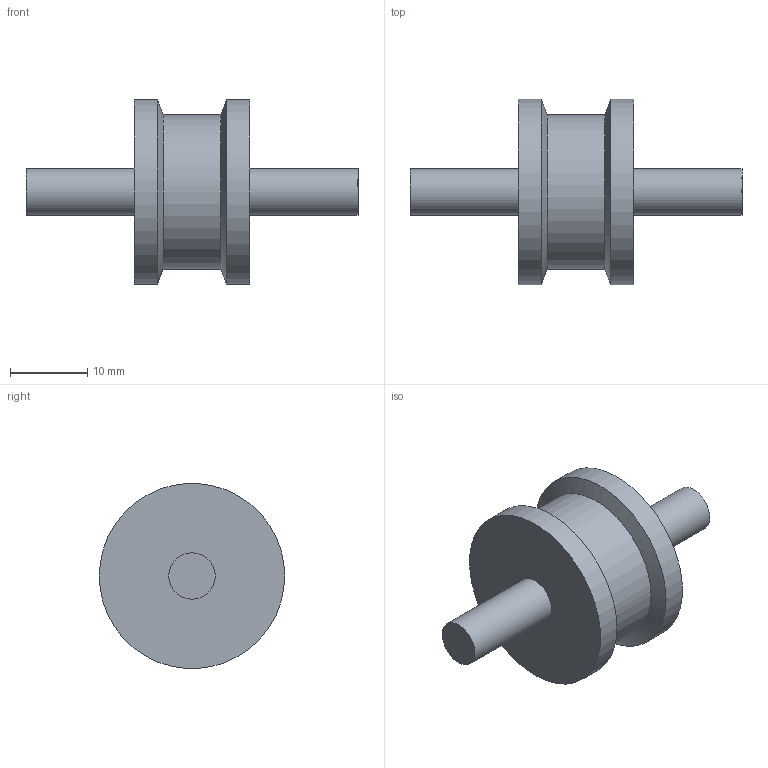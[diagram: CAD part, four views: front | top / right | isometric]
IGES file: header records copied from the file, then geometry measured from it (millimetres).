
Global section: file name: DR_PR8-M6-D24-H15; native system: Autodesk Inventor 2015; preprocessor: unknown; author: Administrator; date: 20170926.090917; units: millimetre
Bounding box: 43 x 24 x 23.95 mm (x, y, z)
Volume: 6435.5 mm3; surface area: 2652.1 mm2
Topology: 1 solids, 1 shells, 11 faces, 27 edges, 20 vertices
Faces by surface type: bspline 11
